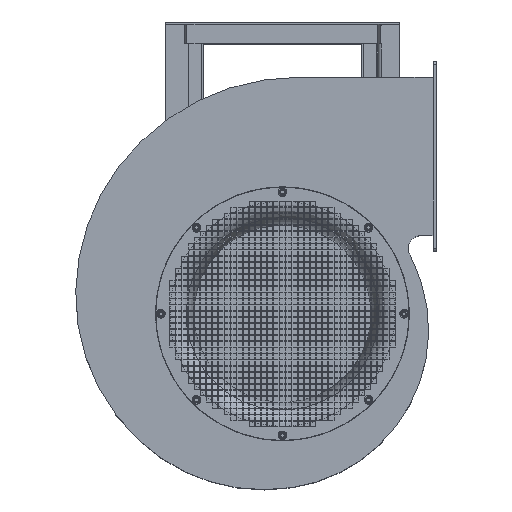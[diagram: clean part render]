
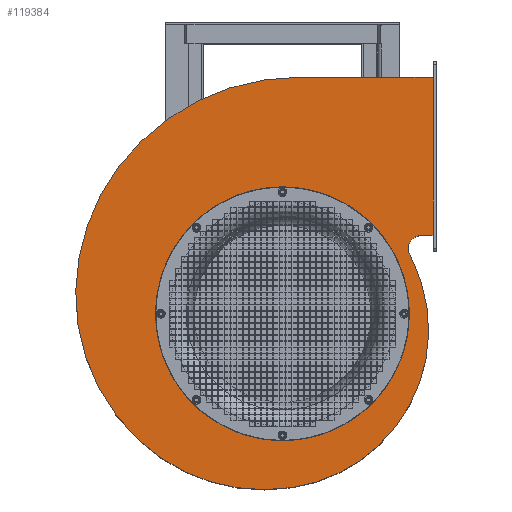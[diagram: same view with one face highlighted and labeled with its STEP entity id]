
A CAD part, top view. The second image highlights one B-rep face of the part: STEP entity #119384.
In plain terms, the highlighted planar face has unit normal (0, 0, 1).
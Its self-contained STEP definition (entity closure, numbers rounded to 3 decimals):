
#3417=FACE_BOUND('',#21670,.T.);
#3819=CIRCLE('',#124801,232.);
#3820=CIRCLE('',#124803,414.198);
#3822=CIRCLE('',#124806,390.72);
#3824=CIRCLE('',#124809,365.422);
#3826=CIRCLE('',#124812,335.286);
#3828=CIRCLE('',#124815,293.922);
#3830=CIRCLE('',#124818,292.857);
#3832=CIRCLE('',#124821,24.);
#14057=FACE_OUTER_BOUND('',#21669,.T.);
#21669=EDGE_LOOP('',(#109046,#109047,#109048,#109049,#109050,#109051,#109052,
#109053,#109054,#109055));
#21670=EDGE_LOOP('',(#109056));
#21709=LINE('',#150646,#36401);
#36360=LINE('',#186483,#51052);
#36362=LINE('',#186486,#51054);
#36401=VECTOR('',#124974,10.);
#51052=VECTOR('',#150517,10.);
#51054=VECTOR('',#150521,10.);
#51106=VERTEX_POINT('',#150643);
#51107=VERTEX_POINT('',#150645);
#61534=VERTEX_POINT('',#186318);
#61535=VERTEX_POINT('',#186321);
#61536=VERTEX_POINT('',#186322);
#61539=VERTEX_POINT('',#186330);
#61541=VERTEX_POINT('',#186336);
#61543=VERTEX_POINT('',#186342);
#61545=VERTEX_POINT('',#186348);
#61547=VERTEX_POINT('',#186354);
#61549=VERTEX_POINT('',#186360);
#61630=EDGE_CURVE('',#51106,#51107,#21709,.T.);
#77344=EDGE_CURVE('',#61534,#61534,#3819,.T.);
#77345=EDGE_CURVE('',#61535,#61536,#3820,.T.);
#77349=EDGE_CURVE('',#61539,#61535,#3822,.T.);
#77352=EDGE_CURVE('',#61541,#61539,#3824,.T.);
#77355=EDGE_CURVE('',#61543,#61541,#3826,.T.);
#77358=EDGE_CURVE('',#61545,#61543,#3828,.T.);
#77361=EDGE_CURVE('',#61547,#61545,#3830,.T.);
#77364=EDGE_CURVE('',#61549,#61547,#3832,.T.);
#77420=EDGE_CURVE('',#51107,#61549,#36360,.T.);
#77422=EDGE_CURVE('',#61536,#51106,#36362,.T.);
#109046=ORIENTED_EDGE('',*,*,#61630,.F.);
#109047=ORIENTED_EDGE('',*,*,#77422,.F.);
#109048=ORIENTED_EDGE('',*,*,#77345,.F.);
#109049=ORIENTED_EDGE('',*,*,#77349,.F.);
#109050=ORIENTED_EDGE('',*,*,#77352,.F.);
#109051=ORIENTED_EDGE('',*,*,#77355,.F.);
#109052=ORIENTED_EDGE('',*,*,#77358,.F.);
#109053=ORIENTED_EDGE('',*,*,#77361,.F.);
#109054=ORIENTED_EDGE('',*,*,#77364,.F.);
#109055=ORIENTED_EDGE('',*,*,#77420,.F.);
#109056=ORIENTED_EDGE('',*,*,#77344,.T.);
#114040=PLANE('',#124884);
#119384=ADVANCED_FACE('',(#14057,#3417),#114040,.T.);
#124801=AXIS2_PLACEMENT_3D('',#186319,#150319,#150320);
#124803=AXIS2_PLACEMENT_3D('',#186323,#150323,#150324);
#124806=AXIS2_PLACEMENT_3D('',#186331,#150331,#150332);
#124809=AXIS2_PLACEMENT_3D('',#186337,#150338,#150339);
#124812=AXIS2_PLACEMENT_3D('',#186343,#150345,#150346);
#124815=AXIS2_PLACEMENT_3D('',#186349,#150352,#150353);
#124818=AXIS2_PLACEMENT_3D('',#186355,#150359,#150360);
#124821=AXIS2_PLACEMENT_3D('',#186361,#150366,#150367);
#124884=AXIS2_PLACEMENT_3D('',#186485,#150519,#150520);
#124974=DIRECTION('',(0.,-1.,0.));
#150319=DIRECTION('center_axis',(0.,0.,
-1.));
#150320=DIRECTION('ref_axis',(0.994,-0.105,0.));
#150323=DIRECTION('center_axis',(0.,0.,
-1.));
#150324=DIRECTION('ref_axis',(0.,-1.,0.));
#150331=DIRECTION('center_axis',(0.,0.,
-1.));
#150332=DIRECTION('ref_axis',(0.694,-0.72,0.));
#150338=DIRECTION('center_axis',(0.,0.,
-1.));
#150339=DIRECTION('ref_axis',(1.,-0.021,0.));
#150345=DIRECTION('center_axis',(0.,0.,
-1.));
#150346=DIRECTION('ref_axis',(0.682,0.731,0.));
#150352=DIRECTION('center_axis',(0.,0.,
-1.));
#150353=DIRECTION('ref_axis',(-0.147,0.989,0.));
#150359=DIRECTION('center_axis',(0.,0.,
-1.));
#150360=DIRECTION('ref_axis',(-0.983,0.185,0.));
#150366=DIRECTION('center_axis',(0.,0.,
1.));
#150367=DIRECTION('ref_axis',(0.,1.,0.));
#150517=DIRECTION('',(-1.,0.,0.));
#150519=DIRECTION('center_axis',(0.,0.,
1.));
#150520=DIRECTION('ref_axis',(-1.,0.,0.));
#150521=DIRECTION('',(1.,0.,0.));
#150643=CARTESIAN_POINT('',(276.,433.555,4.));
#150645=CARTESIAN_POINT('',(276.,143.555,4.));
#150646=CARTESIAN_POINT('',(276.,148.555,4.));
#186318=CARTESIAN_POINT('',(230.711,-24.422,4.));
#186319=CARTESIAN_POINT('Origin',(0.,0.,
4.));
#186321=CARTESIAN_POINT('',(-259.476,315.505,4.));
#186322=CARTESIAN_POINT('',(30.103,433.555,4.));
#186323=CARTESIAN_POINT('Origin',(30.103,19.358,4.));
#186330=CARTESIAN_POINT('',(-378.92,42.407,4.));
#186331=CARTESIAN_POINT('Origin',(11.714,34.226,4.));
#186336=CARTESIAN_POINT('',(-262.758,-232.401,4.));
#186337=CARTESIAN_POINT('Origin',(-13.576,34.884,4.));
#186342=CARTESIAN_POINT('',(17.666,-318.507,4.));
#186343=CARTESIAN_POINT('Origin',(-34.046,12.767,4.));
#186348=CARTESIAN_POINT('',(263.007,-84.004,4.));
#186349=CARTESIAN_POINT('Origin',(-25.485,-27.769,4.));
#186354=CARTESIAN_POINT('',(234.25,106.658,4.));
#186355=CARTESIAN_POINT('Origin',(-24.812,-29.916,4.));
#186360=CARTESIAN_POINT('',(254.49,143.555,4.));
#186361=CARTESIAN_POINT('Origin',(254.49,119.555,4.));
#186483=CARTESIAN_POINT('',(276.,143.555,4.));
#186485=CARTESIAN_POINT('Origin',(-14.952,76.705,4.));
#186486=CARTESIAN_POINT('',(30.103,433.555,4.));
